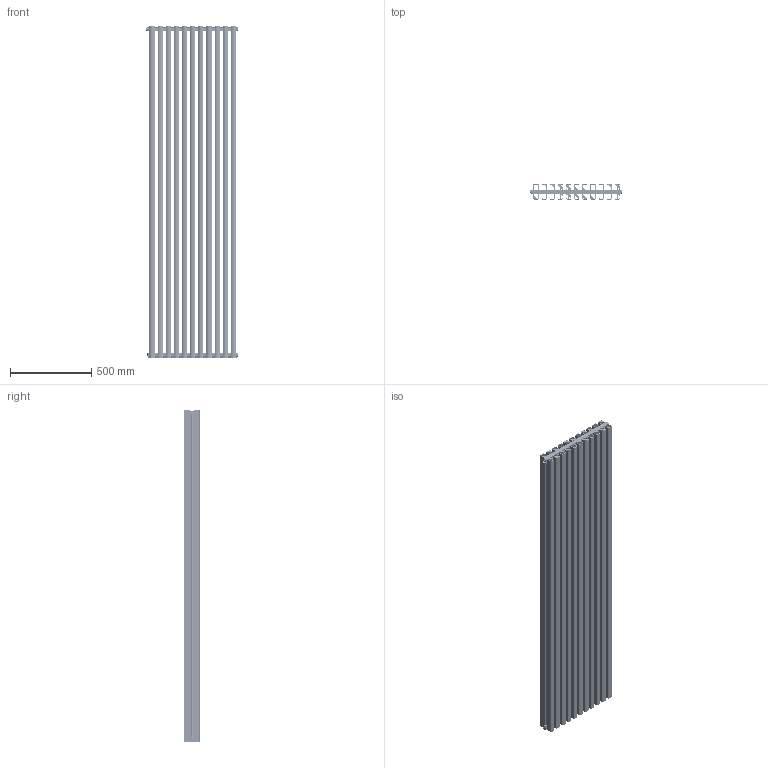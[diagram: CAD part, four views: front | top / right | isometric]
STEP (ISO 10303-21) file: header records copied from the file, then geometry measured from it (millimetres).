
FILE_DESCRIPTION (( 'STEP AP214' ), '1' );
FILE_NAME ('TONALE 2000_11.STEP', '2024-07-22T11:02:40', ( '' ), ( '' ), 'SwSTEP 2.0', 'SolidWorks 2024', '' );
FILE_SCHEMA (( 'AUTOMOTIVE_DESIGN' ));
Length unit declared in the file: millimetre
Products named in the file (12): P3EL00004A_11 elementi; EPC10022D_1000; O-RING 2,4 D16,3; Coperchietto; Assieme vitone con o_ring; Art.011; ETV600G_foro Ø 4; P3EL00002A_2000; P3EL00004A_11 elementi CS; Art.041; TONALE 2000_11
Assembly tree (59 placements, depth 3):
  TONALE 2000_11
    EPC10022D_1000  x11
    Art.011  x3
      Art.011
      Coperchietto
    Art.041
    Art.011  x4
    P3EL00002A_2000  x11
    P3EL00004A_11 elementi CS
    Assieme vitone con o_ring  x22
      ETV600G_foro Ø 4
      O-RING 2,4 D16,3
    P3EL00004A_11 elementi
Bounding box: 566.3 x 95 x 2039.3 mm (x, y, z)
Volume: 13224548.9 mm3; surface area: 16183931.6 mm2
Topology: 104 solids, 104 shells, 6561 faces, 18052 edges, 11486 vertices
Faces by surface type: plane 2788, cylinder 2751, cone 627, torus 207, bspline 144, sphere 44
Entity records: 37123 total; most frequent: CARTESIAN_POINT 13900, DIRECTION 4773, ORIENTED_EDGE 4750, EDGE_CURVE 2375, AXIS2_PLACEMENT_3D 1722, VERTEX_POINT 1539, VECTOR 1329, LINE 1329
